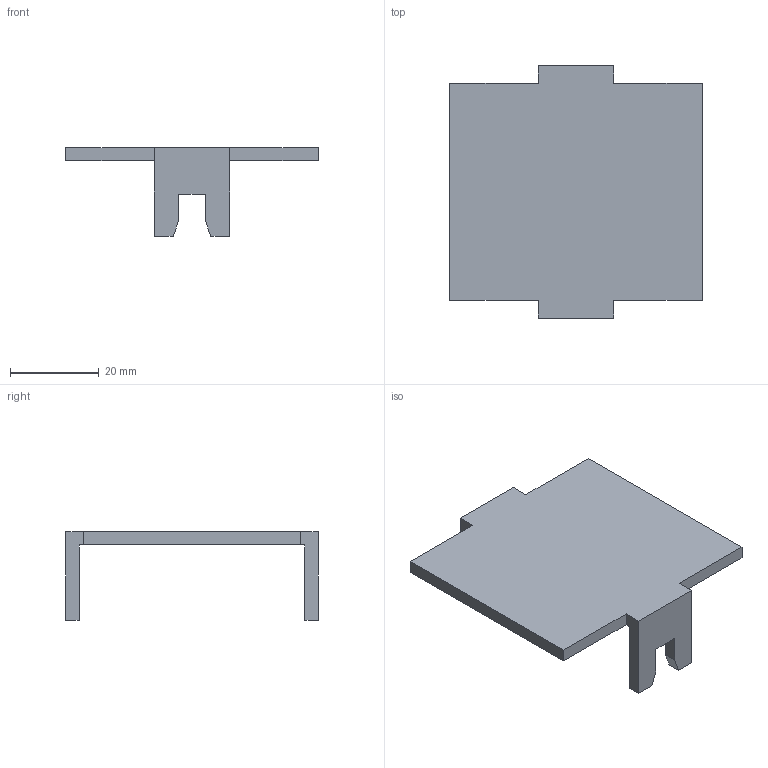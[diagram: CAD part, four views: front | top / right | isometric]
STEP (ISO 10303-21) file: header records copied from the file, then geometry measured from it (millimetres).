
FILE_DESCRIPTION( ( 'STEP AP214' ), '1' );
FILE_NAME( 'p:/temp/worker_128/temp/exporttempdir_5116_125_xWvKN/format_0/CCE06(0).stp', '2021-03-15T14:21:25', ( 'License CC BY-ND 4.0' ), ( 'CADENAS' ), ' ', 'PARTsolutions', ' ' );
FILE_SCHEMA( ( 'AUTOMOTIVE_DESIGN { 1 0 10303 214 1 1 1 1 }' ) );
Length unit declared in the file: millimetre
Products named in the file (1): _CCE06(0)
Bounding box: 57 x 57 x 20 mm (x, y, z)
Volume: 10152.8 mm3; surface area: 7758.1 mm2
Topology: 1 solids, 1 shells, 30 faces, 84 edges, 56 vertices
Faces by surface type: plane 30
Entity records: 1204 total; most frequent: CARTESIAN_POINT 171, ORIENTED_EDGE 168, DIRECTION 146, EDGE_CURVE 84, LINE 84, VECTOR 84, VERTEX_POINT 56, AXIS2_PLACEMENT_3D 31
